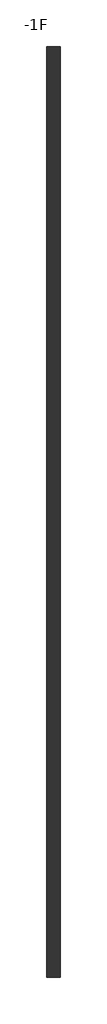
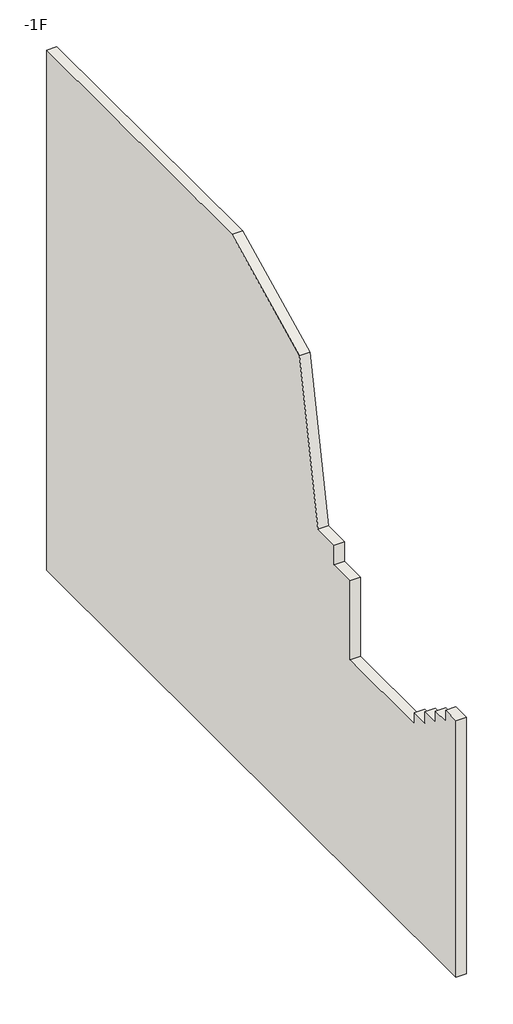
# One storey: 1 wall.
"""IFC4 building model written with IfcOpenShell, lengths in millimetres."""

from ifc_helpers import new_model, si_unit, origin, place, context, project, spatial, transform, mapped, element, save
from components import wall_b3ecdf5a

model = new_model("IFC4")

# Units and contexts
model_context = context("Model", 3, world=origin())
ifc_project = project(units=[si_unit("LENGTHUNIT", "METRE", prefix="MILLI")], contexts=[model_context])

# Site, building, storey
site = spatial("IfcSite", under=ifc_project)
building = spatial("IfcBuilding", under=site)
storey = spatial("IfcBuildingStorey", under=building, Name="-1F", Elevation=-3900.0)

# Wall
placement = place(None, origin())
wall_shape = wall_b3ecdf5a(model_context)
element("IfcWall", 1, ObjectType="牆 1 : 牆 1", at=placement, inside=storey, context=model_context, shape_type="MappedRepresentation", body=[
    mapped(wall_shape, transform((0.0, 0.0, 0.0), x_axis=(1.0, 0.0, 0.0), y_axis=(0.0, 1.0, 0.0), z_axis=(0.0, 0.0, 1.0))),
])

save(model, "model.ifc")
